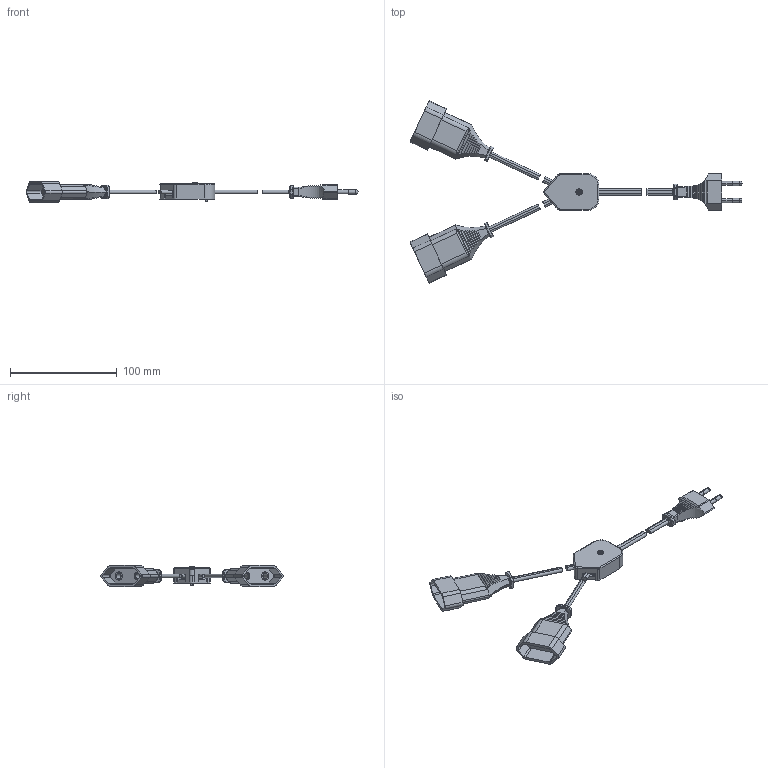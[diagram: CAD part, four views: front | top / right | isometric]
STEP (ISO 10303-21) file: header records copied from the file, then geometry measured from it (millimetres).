
FILE_DESCRIPTION (( 'STEP AP203' ), '1' );
FILE_NAME ('HV_Y-Verteiler_ws_24.STEP', '2024-12-04T05:52:57', ( '' ), ( '' ), 'SwSTEP 2.0', 'SolidWorks 2023', '' );
FILE_SCHEMA (( 'CONFIG_CONTROL_DESIGN' ));
Length unit declared in the file: millimetre
Products named in the file (7): Euroflachstecker_weich_LTG_100mm; EJOT_PT_SCHRAUBE_25x7; UT_HE254_weiss; Anschlusskasten_HE254_weiss; Euroflachkupplung_weich_LTG_D; OT_HE254_weiss_ohne_Druck; HV_Y-Verteiler_ws_24
Assembly tree (7 placements, depth 3):
  HV_Y-Verteiler_ws_24
    Anschlusskasten_HE254_weiss
      UT_HE254_weiss
      OT_HE254_weiss_ohne_Druck
    Euroflachkupplung_weich_LTG_D  x2
    EJOT_PT_SCHRAUBE_25x7
    Euroflachstecker_weich_LTG_100mm
Bounding box: 310.32 x 170.37 x 19.7 mm (x, y, z)
Volume: 66066 mm3; surface area: 44193.1 mm2
Topology: 9 solids, 9 shells, 749 faces, 1952 edges, 1254 vertices
Faces by surface type: plane 428, cylinder 240, bspline 34, cone 24, sphere 12, torus 11
Entity records: 22298 total; most frequent: CARTESIAN_POINT 7456, ORIENTED_EDGE 3114, DIRECTION 2723, EDGE_CURVE 1557, VERTEX_POINT 1006, AXIS2_PLACEMENT_3D 921, VECTOR 881, LINE 881
